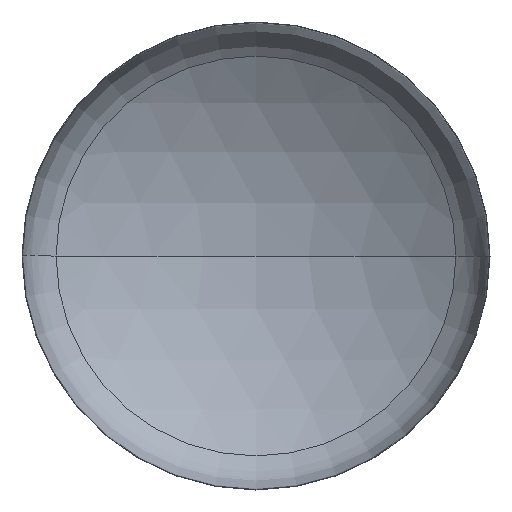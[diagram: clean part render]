
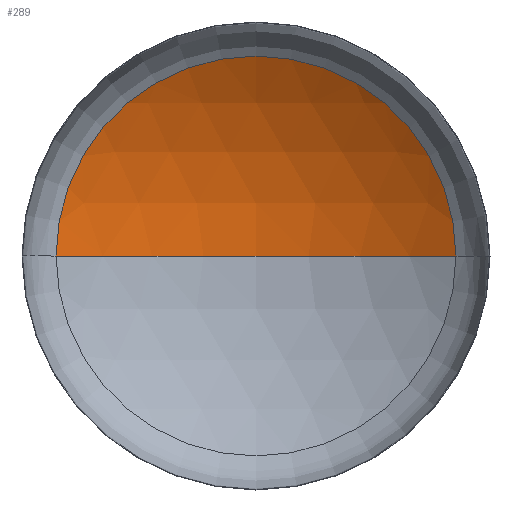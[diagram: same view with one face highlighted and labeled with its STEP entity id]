
A CAD part, front view. The second image highlights one B-rep face of the part: STEP entity #289.
In plain terms, the highlighted spherical face has radius 2720 mm.
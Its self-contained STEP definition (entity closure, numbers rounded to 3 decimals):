
#20 = CARTESIAN_POINT ( 'NONE',  ( 0., 884.079, 0. ) ) ;
#26 = DIRECTION ( 'NONE',  ( 0., 0., -1. ) ) ;
#27 = CIRCLE ( 'NONE', #119, 1452.319 ) ;
#29 = ORIENTED_EDGE ( 'NONE', *, *, #189, .T. ) ;
#34 = VERTEX_POINT ( 'NONE', #390 ) ;
#37 = VERTEX_POINT ( 'NONE', #187 ) ;
#46 = AXIS2_PLACEMENT_3D ( 'NONE', #301, #399, #93 ) ;
#62 = ORIENTED_EDGE ( 'NONE', *, *, #191, .T. ) ;
#69 = VERTEX_POINT ( 'NONE', #20 ) ;
#93 = DIRECTION ( 'NONE',  ( -1., 0., 0. ) ) ;
#94 = EDGE_LOOP ( 'NONE', ( #323, #62, #29 ) ) ;
#108 = AXIS2_PLACEMENT_3D ( 'NONE', #324, #213, #369 ) ;
#112 = AXIS2_PLACEMENT_3D ( 'NONE', #216, #26, #256 ) ;
#119 = AXIS2_PLACEMENT_3D ( 'NONE', #122, #304, #161 ) ;
#122 = CARTESIAN_POINT ( 'NONE',  ( 0., 463.899, 0. ) ) ;
#155 = SPHERICAL_SURFACE ( 'NONE', #46, 2720. ) ;
#161 = DIRECTION ( 'NONE',  ( 1., 0., 0. ) ) ;
#187 = CARTESIAN_POINT ( 'NONE',  ( 1452.319, 463.899, 0. ) ) ;
#189 = EDGE_CURVE ( 'NONE', #37, #34, #27, .T. ) ;
#191 = EDGE_CURVE ( 'NONE', #69, #37, #353, .T. ) ;
#193 = EDGE_CURVE ( 'NONE', #69, #34, #239, .T. ) ;
#213 = DIRECTION ( 'NONE',  ( 0., 0., 1. ) ) ;
#216 = CARTESIAN_POINT ( 'NONE',  ( 0., -1835.921, 0. ) ) ;
#239 = CIRCLE ( 'NONE', #108, 2720. ) ;
#256 = DIRECTION ( 'NONE',  ( -1., 0., 0. ) ) ;
#289 = ADVANCED_FACE ( 'NONE', ( #401 ), #155, .F. ) ;
#301 = CARTESIAN_POINT ( 'NONE',  ( 0., -1835.921, 0. ) ) ;
#304 = DIRECTION ( 'NONE',  ( 0., -1., 0. ) ) ;
#323 = ORIENTED_EDGE ( 'NONE', *, *, #193, .F. ) ;
#324 = CARTESIAN_POINT ( 'NONE',  ( 0., -1835.921, 0. ) ) ;
#353 = CIRCLE ( 'NONE', #112, 2720. ) ;
#369 = DIRECTION ( 'NONE',  ( 1., 0., 0. ) ) ;
#390 = CARTESIAN_POINT ( 'NONE',  ( -1452.319, 463.899, 0. ) ) ;
#399 = DIRECTION ( 'NONE',  ( 0., 0., -1. ) ) ;
#401 = FACE_OUTER_BOUND ( 'NONE', #94, .T. ) ;
